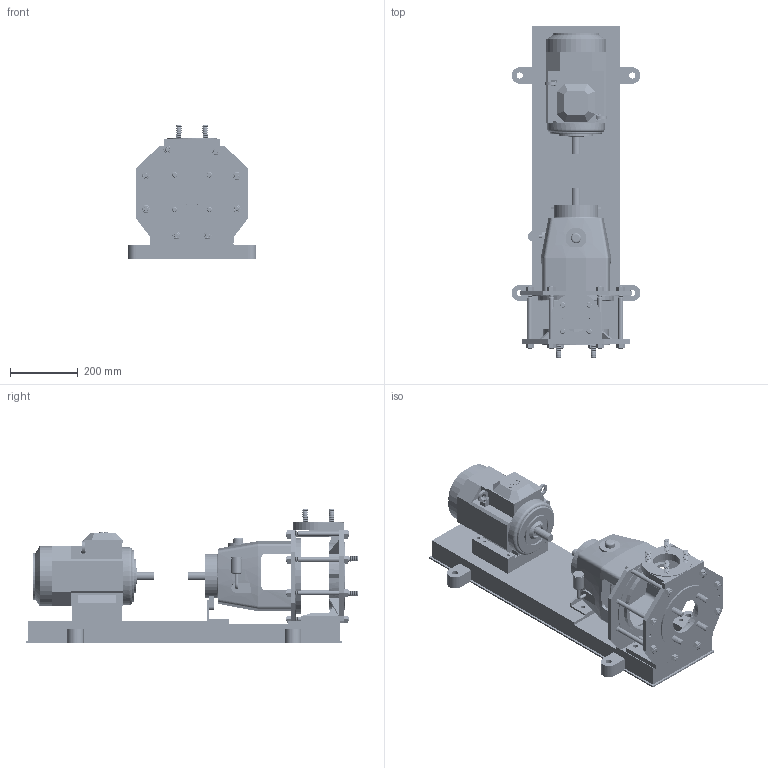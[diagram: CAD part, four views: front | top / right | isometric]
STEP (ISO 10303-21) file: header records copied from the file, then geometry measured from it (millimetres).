
FILE_DESCRIPTION((''),'2;1');
FILE_NAME('KSI 40-160--90 frame.stp','2010-08-04T14:07:26',(''),(''),'AutoCAD STEP 2000i','AutoCAD 2000i',', , ');
FILE_SCHEMA(('CONFIG_CONTROL_DESIGN'));
Length unit declared in the file: millimetre
Products named in the file (2): KSI 40-160--90 FRAME A; A2.4966_67 90 foot
Assembly tree (1 placements, depth 2):
  KSI 40-160--90 FRAME A
    A2.4966_67 90 foot
Bounding box: 380 x 980 x 395 mm (x, y, z)
Volume: 29135117.8 mm3; surface area: 2183823.3 mm2
Topology: 41 solids, 41 shells, 6688 faces, 16663 edges, 10082 vertices
Faces by surface type: cone 2440, torus 2250, cylinder 1388, plane 577, bspline 33
Entity records: 203605 total; most frequent: DIRECTION 41064, CARTESIAN_POINT 35756, ORIENTED_EDGE 33326, AXIS2_PLACEMENT_3D 18090, EDGE_CURVE 16663, CIRCLE 11433, VERTEX_POINT 10082, EDGE_LOOP 6887
